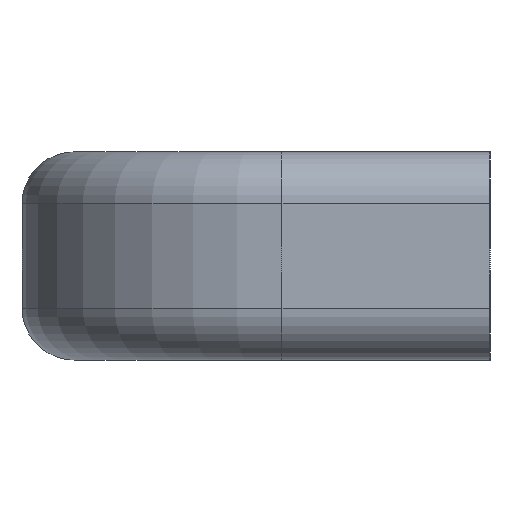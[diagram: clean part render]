
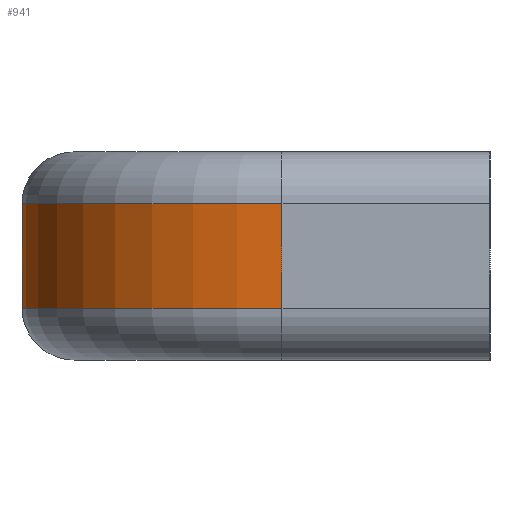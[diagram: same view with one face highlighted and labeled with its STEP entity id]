
A CAD part, left-side view. The second image highlights one B-rep face of the part: STEP entity #941.
In plain terms, the highlighted cylindrical face has radius 25 mm (diameter 50 mm), a partial arc.
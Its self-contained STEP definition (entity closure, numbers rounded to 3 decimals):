
#487 = CARTESIAN_POINT ( 'NONE',  ( -155., 45., 5. ) ) ;
#488 = CARTESIAN_POINT ( 'NONE',  ( -155., 45., -5. ) ) ;
#489 = DIRECTION ( 'NONE',  ( 0., 0., 1. ) ) ;
#490 = VECTOR ( 'NONE', #489, 1000. ) ;
#491 = CARTESIAN_POINT ( 'NONE',  ( -155., 45., 5. ) ) ;
#492 = LINE ( 'NONE', #491, #490 ) ;
#499 = CARTESIAN_POINT ( 'NONE',  ( -180., 20., -5. ) ) ;
#500 = DIRECTION ( 'NONE',  ( 0., 0., 1. ) ) ;
#501 = VECTOR ( 'NONE', #500, 1000. ) ;
#502 = CARTESIAN_POINT ( 'NONE',  ( -180., 20., 5. ) ) ;
#503 = LINE ( 'NONE', #502, #501 ) ;
#504 = DIRECTION ( 'NONE',  ( -1., 0., 0. ) ) ;
#505 = DIRECTION ( 'NONE',  ( 0., 0., -1. ) ) ;
#506 = CARTESIAN_POINT ( 'NONE',  ( -155., 20., 0. ) ) ;
#507 = AXIS2_PLACEMENT_3D ( 'NONE', #506, #505, #504 ) ;
#508 = CYLINDRICAL_SURFACE ( 'NONE', #507, 25. ) ;
#509 = FACE_OUTER_BOUND ( 'NONE', #942, .T. ) ;
#550 = DIRECTION ( 'NONE',  ( 0., 0., -1. ) ) ;
#551 = CARTESIAN_POINT ( 'NONE',  ( -155., 20., -5. ) ) ;
#552 = AXIS2_PLACEMENT_3D ( 'NONE', #551, #550, #608 ) ;
#553 = CIRCLE ( 'NONE', #552, 25. ) ;
#554 = DIRECTION ( 'NONE',  ( -1., 0., 0. ) ) ;
#555 = DIRECTION ( 'NONE',  ( 0., 0., -1. ) ) ;
#556 = CARTESIAN_POINT ( 'NONE',  ( -155., 20., 5. ) ) ;
#557 = AXIS2_PLACEMENT_3D ( 'NONE', #556, #555, #554 ) ;
#558 = CIRCLE ( 'NONE', #557, 25. ) ;
#559 = CARTESIAN_POINT ( 'NONE',  ( -180., 20., 5. ) ) ;
#608 = DIRECTION ( 'NONE',  ( -1., 0., 0. ) ) ;
#941 = ADVANCED_FACE ( 'NONE', ( #509 ), #508, .T. ) ;
#942 = EDGE_LOOP ( 'NONE', ( #943, #985, #987, #988 ) ) ;
#943 = ORIENTED_EDGE ( 'NONE', *, *, #944, .T. ) ;
#944 = EDGE_CURVE ( 'NONE', #945, #984, #503, .T. ) ;
#945 = VERTEX_POINT ( 'NONE', #499 ) ;
#951 = EDGE_CURVE ( 'NONE', #952, #953, #492, .T. ) ;
#952 = VERTEX_POINT ( 'NONE', #488 ) ;
#953 = VERTEX_POINT ( 'NONE', #487 ) ;
#984 = VERTEX_POINT ( 'NONE', #559 ) ;
#985 = ORIENTED_EDGE ( 'NONE', *, *, #986, .T. ) ;
#986 = EDGE_CURVE ( 'NONE', #984, #953, #558, .T. ) ;
#987 = ORIENTED_EDGE ( 'NONE', *, *, #951, .F. ) ;
#988 = ORIENTED_EDGE ( 'NONE', *, *, #989, .F. ) ;
#989 = EDGE_CURVE ( 'NONE', #945, #952, #553, .T. ) ;
